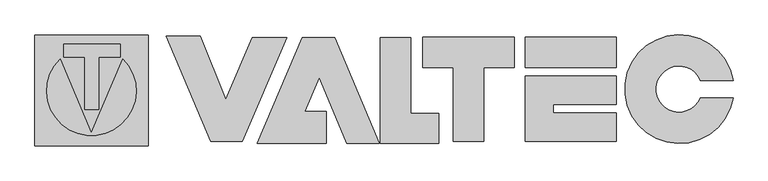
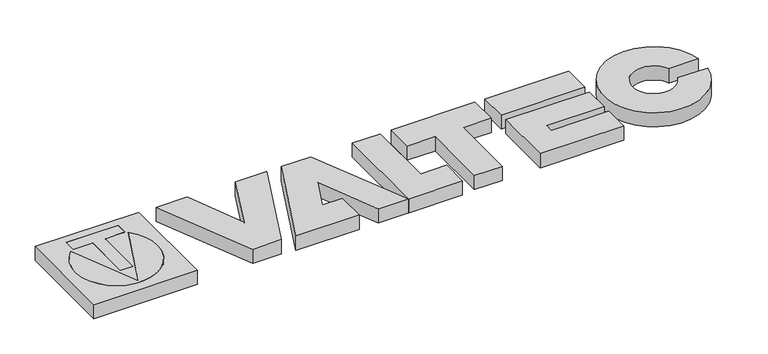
"""IFC4 building model written with IfcOpenShell, lengths in millimetres: proxy geometry, VALTEC_3D-Logo : VALTEC_3D-Logo."""

from ifc_helpers import new_model, si_unit, point, frame_2d, origin, origin_with_axes, place, context, project, spatial, polyline, circle_curve, trimmed, segment, composite_curve, outline, extrude, source, transform, mapped, element, save


def entourage_e9608d01(model_context):
    return source(origin(), model_context, "Body", "SweptSolid", [
        extrude(outline(composite_curve([segment(polyline([(-2671.2958878, -388.2382342), (-2381.7178271, 293.9649251)]), True, "CONTINUOUS"), segment(trimmed(circle_curve(frame_2d((-2669.8585661, -0.2850573)), 411.8350854), [point((-2381.7178271, 293.9649251))], [point((-2957.9993051, 293.9649251))], False, "CARTESIAN"), True, "CONTINUOUS"), segment(polyline([(-2957.9993051, 293.9649251), (-2671.2958878, -388.2382342)]), True, "CONTINUOUS")], self_intersect=False)), origin_with_axes(), (0.0, 0.0, 1.0), 150.0),
        extrude(outline(polyline([(-2729.1024099, 309.6683822), (-2924.1024099, 309.6683822), (-2924.1024099, 429.6683822), (-2404.1024099, 429.6683822), (-2404.1024099, 309.6683822), (-2604.1024099, 309.6683822), (-2604.1024099, -170.3316178), (-2729.1024099, -170.3316178), (-2729.1024099, 309.6683822)])), origin_with_axes(), (0.0, 0.0, 1.0), 150.0),
        extrude(outline(polyline([(1216.9232806, 495.1789608), (1216.9232806, 215.1789608), (936.9232806, 215.1789608), (936.9232806, -464.8210392), (656.9232806, -464.8210392), (656.9232806, 215.1789608), (376.9232806, 215.1789608), (376.9232806, 495.1789608), (1216.9232806, 495.1789608)])), origin_with_axes(), (0.0, 0.0, 1.0), 150.0),
        extrude(outline(polyline([(2156.9232806, 495.1789608), (2156.9232806, 215.1789608), (1316.9232806, 215.1789608), (1316.9232806, 495.1789608), (2156.9232806, 495.1789608)])), origin_with_axes(), (0.0, 0.0, 1.0), 150.0),
        extrude(outline(polyline([(2156.9232806, 135.1789608), (2156.9232806, -124.8210392), (1576.9232806, -124.8210392), (1576.9232806, -204.8210392), (2156.9232806, -204.8210392), (2156.9232806, -464.8210392), (1316.9232806, -464.8210392), (1316.9232806, 135.1789608), (2156.9232806, 135.1789608)])), origin_with_axes(), (0.0, 0.0, 1.0), 150.0),
        extrude(outline(composite_curve([segment(polyline([(3228.6763246, 94.6468031), (2928.6763246, 94.6468031)]), True, "CONTINUOUS"), segment(trimmed(circle_curve(frame_2d((2731.4925589, 14.912882)), 212.6944654), [point((2928.6763246, 94.6468031))], [point((2928.6763246, -64.8210392))], True, "CARTESIAN"), True, "CONTINUOUS"), segment(polyline([(2928.6763246, -64.8210392), (3228.6763246, -64.8210392)]), True, "CONTINUOUS"), segment(trimmed(circle_curve(frame_2d((2733.9543562, 14.912882)), 501.1061008), [point((3228.6763246, -64.8210392))], [point((3228.6763246, 94.6468031))], False, "CARTESIAN"), True, "CONTINUOUS")], self_intersect=False)), origin_with_axes(), (0.0, 0.0, 1.0), 150.0),
        extrude(outline(polyline([(-2149.273029, 511.6367122), (-2149.273029, -508.3632878), (-3189.273029, -508.3632878), (-3189.273029, 511.6367122), (-2149.273029, 511.6367122)]), holes=[composite_curve([segment(polyline([(-2671.2958878, -388.2382342), (-2957.9993051, 293.9649251)]), True, "CONTINUOUS"), segment(trimmed(circle_curve(frame_2d((-2669.8585661, -0.2850573)), 411.8350854), [point((-2957.9993051, 293.9649251))], [point((-2381.7178271, 293.9649251))], True, "CARTESIAN"), True, "CONTINUOUS"), segment(polyline([(-2381.7178271, 293.9649251), (-2671.2958878, -388.2382342)]), True, "CONTINUOUS")], self_intersect=False), polyline([(-2604.1024099, -170.3316178), (-2604.1024099, 309.6683822), (-2404.1024099, 309.6683822), (-2404.1024099, 429.6683822), (-2924.1024099, 429.6683822), (-2924.1024099, 309.6683822), (-2729.1024099, 309.6683822), (-2729.1024099, -170.3316178), (-2604.1024099, -170.3316178)])]), origin_with_axes(), (0.0, 0.0, 1.0), 150.0),
        extrude(outline(polyline([(-1670.2327667, 501.6367122), (-1434.5248092, -81.7609547), (-1191.1319399, 491.6367122), (-876.1319399, 491.6367122), (-1283.6277635, -468.3632878), (-1572.4171982, -468.3632878), (-1980.0704185, 501.6367122), (-1670.2327667, 501.6367122)])), origin_with_axes(), (0.0, 0.0, 1.0), 150.0),
        extrude(outline(polyline([(-732.5041764, 491.6367122), (-432.5041764, 491.6367122), (-21.820903, -485.5732187), (-321.820903, -485.5732187), (-577.5293563, 122.8782477), (-710.37794, -190.0934025), (-510.37794, -190.0934025), (-510.37794, -485.5732187), (-1147.3051822, -485.5732187), (-732.5041764, 491.6367122)])), origin_with_axes(), (0.0, 0.0, 1.0), 150.0),
        extrude(outline(polyline([(-15.0, 491.6367122), (265.0, 491.6367122), (265.0, -208.3632878), (525.0, -208.3632878), (525.0, -485.5732187), (-15.0, -485.5732187), (-15.0, 491.6367122)])), origin_with_axes(), (0.0, 0.0, 1.0), 150.0),
    ])


if __name__ == "__main__":
    model = new_model("IFC4")
    model_context = context("Model", 3, world=origin())
    ifc_project = project(units=[si_unit("LENGTHUNIT", "METRE", prefix="MILLI")], contexts=[model_context])
    site = spatial("IfcSite", under=ifc_project)
    building = spatial("IfcBuilding", under=site)
    placement = place(None, origin())
    entourage_shape = entourage_e9608d01(model_context)
    element("IfcBuildingElementProxy", 1, Name="VALTEC_3D-Logo : VALTEC_3D-Logo", ObjectType="VALTEC_3D-Logo : VALTEC_3D-Logo", at=placement, inside=building, context=model_context, shape_type="MappedRepresentation", body=[
        mapped(entourage_shape, transform((0.0, 0.0, 0.0), x_axis=(1.0, 0.0, 0.0), y_axis=(0.0, 1.0, 0.0), z_axis=(0.0, 0.0, 1.0))),
    ])
    save(model, "model.ifc")
